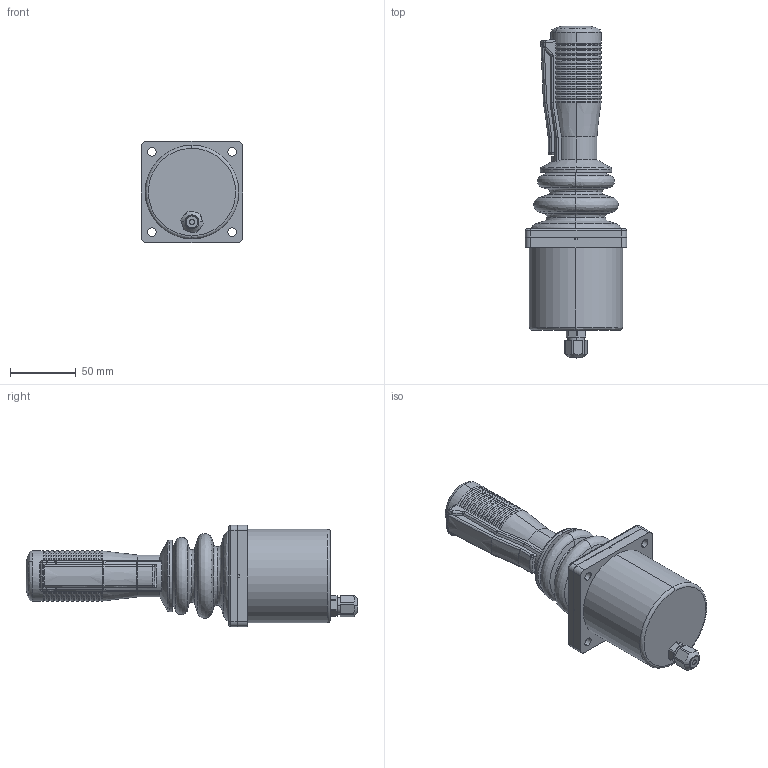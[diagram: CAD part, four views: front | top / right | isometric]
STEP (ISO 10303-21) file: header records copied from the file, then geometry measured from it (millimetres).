
FILE_DESCRIPTION (( 'STEP AP214' ), '1' );
FILE_NAME ('TRY80_DeadMan.STEP', '2013-03-25T14:48:54', ( '' ), ( '' ), 'SwSTEP 2.0', 'SolidWorks 2012', '' );
FILE_SCHEMA (( 'AUTOMOTIVE_DESIGN' ));
Length unit declared in the file: inch
Products named in the file (1): TRY80_DeadMan
Bounding box: 76.99 x 252.06 x 76.99 mm (x, y, z)
Surface area: 63684.9 mm2 (no closed solid volume)
Topology: 0 solids, 6 shells, 325 faces, 853 edges, 541 vertices
Faces by surface type: cylinder 109, cone 98, bspline 62, plane 56
Entity records: 12103 total; most frequent: CARTESIAN_POINT 4138, ORIENTED_EDGE 1651, DIRECTION 1433, EDGE_CURVE 853, AXIS2_PLACEMENT_3D 568, VERTEX_POINT 541, EDGE_LOOP 349, ADVANCED_FACE 325
